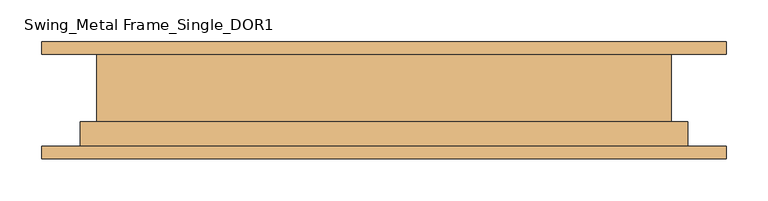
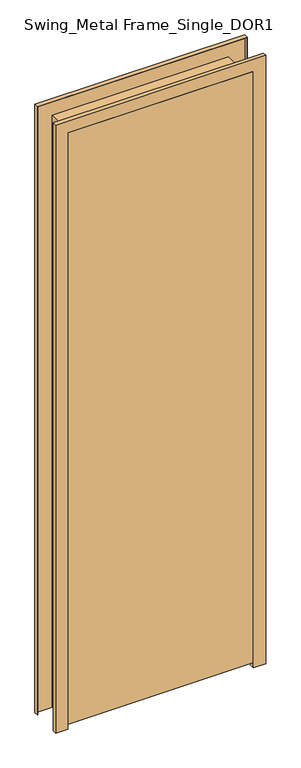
"""IFC4 building model written with IfcOpenShell, lengths in millimetres: door geometry, Swing_Metal Frame_Single_DOR1 : 2040h x 720 (2110x820 STUD)."""

from ifc_helpers import new_model, si_unit, frame, origin, place, context, project, spatial, polyline, outline, extrude, faceted_brep, source, transform, mapped, element, save


def swing_metal_frame_single_dor1_61deca97(model_context):
    return source(origin(), model_context, "Body", "SolidModel", [
        extrude(outline(polyline([(360.0, -70.0), (-360.0, -70.0), (-360.0, -30.0), (360.0, -30.0), (360.0, -70.0)])), frame((0.0, 0.0, 20.0), z_axis=(0.0, 0.0, 1.0), x_axis=(1.0, 0.0, 0.0)), (0.0, 0.0, 1.0), 2440.0),
        faceted_brep([(-410.0, 70.0, 0.0), (-342.0, 70.0, 0.0), (-342.0, -28.0, 0.0), (-362.0, -28.0, 0.0), (-362.0, -70.0, 0.0), (-410.0, -70.0, 0.0), (-410.0, -55.0, 0.0), (-408.0, -55.0, 0.0), (-408.0, -68.0, 0.0), (-364.0, -68.0, 0.0), (-364.0, -26.0, 0.0), (-344.0, -26.0, 0.0), (-344.0, 68.0, 0.0), (-408.0, 68.0, 0.0), (-408.0, 55.0, 0.0), (-410.0, 55.0, 0.0), (-410.0, 55.0, 2510.0), (-410.0, 70.0, 2510.0), (-408.0, 55.0, 2508.0), (408.0, 55.0, 2508.0), (408.0, 55.0, 0.0), (410.0, 55.0, 0.0), (410.0, 55.0, 2510.0), (-408.0, 68.0, 2508.0), (-344.0, 68.0, 2444.0), (344.0, 68.0, 2444.0), (344.0, 68.0, 0.0), (408.0, 68.0, 0.0), (408.0, 68.0, 2508.0), (-344.0, -26.0, 2444.0), (-364.0, -26.0, 2464.0), (364.0, -26.0, 2464.0), (364.0, -26.0, 0.0), (344.0, -26.0, 0.0), (344.0, -26.0, 2444.0), (-364.0, -68.0, 2464.0), (-408.0, -68.0, 2508.0), (408.0, -68.0, 2508.0), (408.0, -68.0, 0.0), (364.0, -68.0, 0.0), (364.0, -68.0, 2464.0), (-408.0, -55.0, 2508.0), (-410.0, -55.0, 2510.0), (410.0, -55.0, 2510.0), (410.0, -55.0, 0.0), (408.0, -55.0, 0.0), (408.0, -55.0, 2508.0), (-410.0, -70.0, 2510.0), (-362.0, -70.0, 2462.0), (362.0, -70.0, 2462.0), (362.0, -70.0, 0.0), (410.0, -70.0, 0.0), (410.0, -70.0, 2510.0), (-362.0, -28.0, 2462.0), (-342.0, -28.0, 2442.0), (342.0, -28.0, 2442.0), (342.0, -28.0, 0.0), (362.0, -28.0, 0.0), (362.0, -28.0, 2462.0), (-342.0, 70.0, 2442.0), (410.0, 70.0, 2510.0), (410.0, 70.0, 0.0), (342.0, 70.0, 0.0), (342.0, 70.0, 2442.0)], [[[0, 1, 2, 3, 4, 5, 6, 7, 8, 9, 10, 11, 12, 13, 14, 15]], [[15, 16, 17, 0]], [[14, 18, 19, 20, 21, 22, 16, 15]], [[13, 23, 18, 14]], [[12, 24, 25, 26, 27, 28, 23, 13]], [[11, 29, 24, 12]], [[10, 30, 31, 32, 33, 34, 29, 11]], [[9, 35, 30, 10]], [[8, 36, 37, 38, 39, 40, 35, 9]], [[7, 41, 36, 8]], [[6, 42, 43, 44, 45, 46, 41, 7]], [[5, 47, 42, 6]], [[4, 48, 49, 50, 51, 52, 47, 5]], [[3, 53, 48, 4]], [[2, 54, 55, 56, 57, 58, 53, 3]], [[1, 59, 54, 2]], [[0, 17, 60, 61, 62, 63, 59, 1]], [[22, 21, 61, 60]], [[61, 21, 20, 27, 26, 33, 32, 39, 38, 45, 44, 51, 50, 57, 56, 62]], [[28, 27, 20, 19]], [[34, 33, 26, 25]], [[40, 39, 32, 31]], [[46, 45, 38, 37]], [[52, 51, 44, 43]], [[58, 57, 50, 49]], [[63, 62, 56, 55]], [[16, 22, 60, 17]], [[23, 28, 19, 18]], [[29, 34, 25, 24]], [[35, 40, 31, 30]], [[41, 46, 37, 36]], [[47, 52, 43, 42]], [[53, 58, 49, 48]], [[59, 63, 55, 54]]]),
    ])


if __name__ == "__main__":
    model = new_model("IFC4")
    model_context = context("Model", 3, world=origin())
    ifc_project = project(units=[si_unit("LENGTHUNIT", "METRE", prefix="MILLI")], contexts=[model_context])
    site = spatial("IfcSite", under=ifc_project)
    building = spatial("IfcBuilding", under=site)
    placement = place(None, origin())
    swing_metal_frame_single_dor1_shape = swing_metal_frame_single_dor1_61deca97(model_context)
    element("IfcDoor", 1, ObjectType="Swing_Metal Frame_Single_DOR1 : 2040h x 720 (2110x820 STUD)", at=placement, inside=building, context=model_context, shape_type="MappedRepresentation", body=[
        mapped(swing_metal_frame_single_dor1_shape, transform((0.0, 0.0, 0.0), x_axis=(1.0, 0.0, 0.0), y_axis=(0.0, 1.0, 0.0), z_axis=(0.0, 0.0, 1.0))),
    ])
    save(model, "model.ifc")
